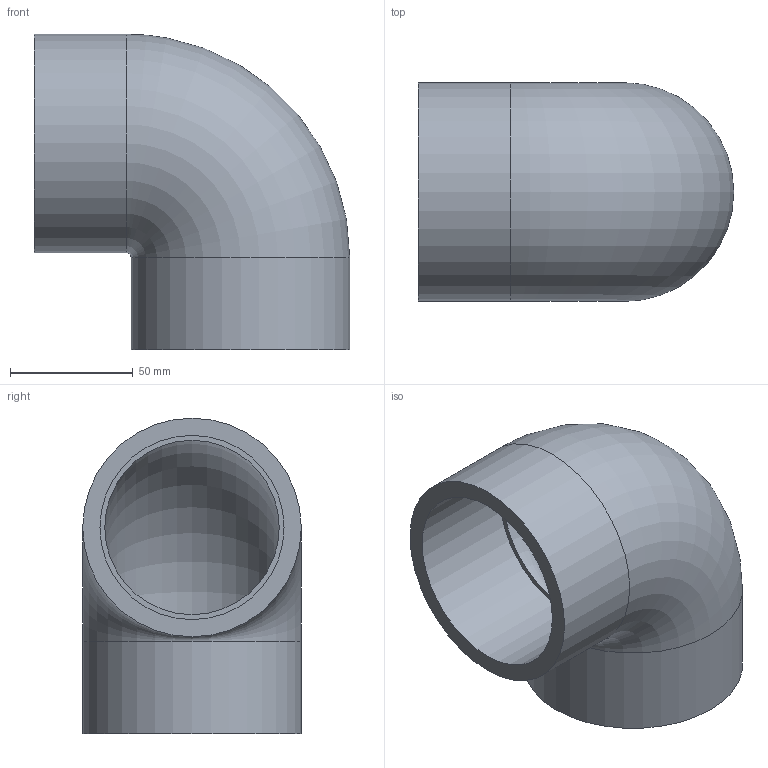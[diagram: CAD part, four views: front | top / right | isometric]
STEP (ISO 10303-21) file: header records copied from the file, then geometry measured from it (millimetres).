
FILE_DESCRIPTION(/* description */ ('PVC Elbow 90° solvent cement metric'),/* implementation_level */ '2;1');
FILE_NAME(/* name */ 'C:\Users\POLYPIPE\Desktop\DATASET INVENTOR\LIBRERIA EFFAST\RACCORDI 3DxWEB\RDR\3D_RDRGOD\3D_RDRGOD0750.stp',/* time_stamp */ '2018-01-19T14:27:59+01:00',/* author */ ('POLYPIPE'),/* organization */ ('Polypipe Italia s.r.l.'),/* preprocessor_version */ 'ST-DEVELOPER v16.1',/* originating_system */ 'Autodesk Inventor 2016',/* authorisation */ '');
FILE_SCHEMA (('CONFIG_CONTROL_DESIGN','AP242_MANAGED_MODEL_BASED_3D_ENGINEERING_MIM_LF { 1 0 10303 442 1 1 4 }'));
Length unit declared in the file: millimetre
Products named in the file (1): 3D_RDRGOD
Bounding box: 128.5 x 89 x 128.5 mm (x, y, z)
Volume: 280837.9 mm3; surface area: 80786.9 mm2
Topology: 1 solids, 1 shells, 10 faces, 16 edges, 10 vertices
Faces by surface type: cylinder 4, plane 4, torus 2
Full cylindrical faces by diameter (mm): 75 x2, 89 x2
Entity records: 232 total; most frequent: DIRECTION 42, CARTESIAN_POINT 31, AXIS2_PLACEMENT_3D 21, EDGE_LOOP 20, ORIENTED_EDGE 20, FACE_BOUND 10, FACE_OUTER_BOUND 10, CIRCLE 10
